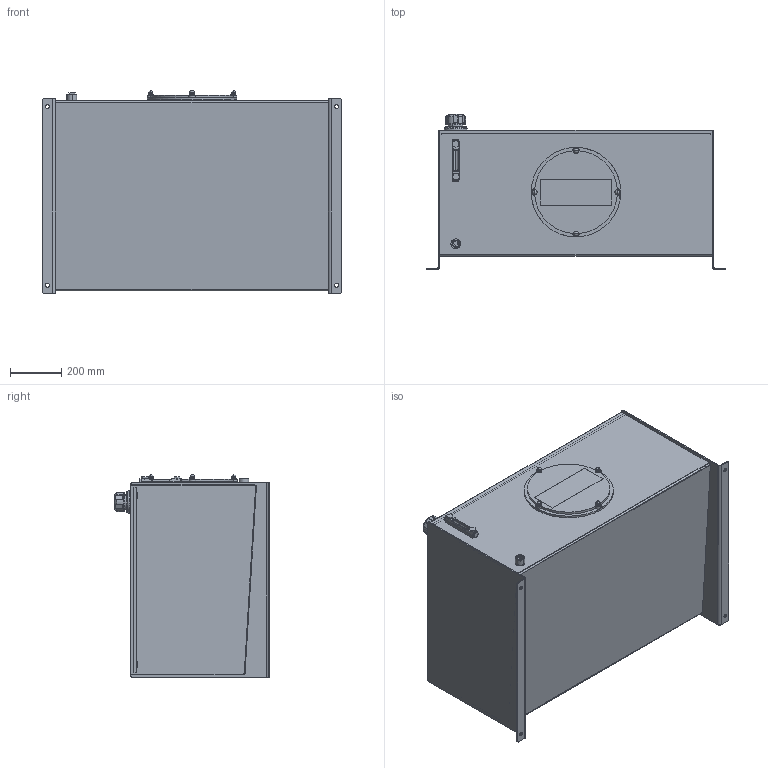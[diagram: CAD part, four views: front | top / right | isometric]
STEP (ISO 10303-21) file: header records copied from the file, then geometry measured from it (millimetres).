
FILE_DESCRIPTION (( 'STEP AP203' ), '1' );
FILE_NAME ('RDIN080-CFA.STEP', '2018-03-02T18:30:03', ( 'Windows User' ), ( '' ), 'SwSTEP 2.0', 'SolidWorks 2017', '' );
FILE_SCHEMA (( 'CONFIG_CONTROL_DESIGN' ));
Length unit declared in the file: inch
Products named in the file (20): 8162-008-2_4534K45; RDIN060-QSTSBUR00080008; RHJ-PLUG-016; BHS8100-15350; RHJ-PLUG-200; REC-M350K; RDIN080-CFA-TOP; RDIN080-CFA-BODY_RJIC020-BODY; Weld Riser; S12; RDIN080-CFA-REND; RDIN080-CFA; FB-C-H_FB-H008W; WFZM010; FB-H008W; REC-M350C-4; FB-S-W; PLLG-05T; RDIN080-CFA-LEND; FB-F008_FB-F-008
Assembly tree (26 placements, depth 3):
  RHJ-PLUG-016
  RHJ-PLUG-200
  RDIN080-CFA
    RDIN080-CFA-BODY_RJIC020-BODY
    RDIN080-CFA-LEND
    RDIN080-CFA-REND
    RDIN080-CFA-TOP
    RDIN060-QSTSBUR00080008  x4
    Weld Riser
    FB-H008W
      FB-F008_FB-F-008
      FB-S-W
      FB-C-H_FB-H008W
    BHS8100-15350  x4
    PLLG-05T
    REC-M350K
      REC-M350C-4
      WFZM010  x4
    S12
    8162-008-2_4534K45
Bounding box: 1168.4 x 606.04 x 792.72 mm (x, y, z)
Volume: 18208826.1 mm3; surface area: 7363799.7 mm2
Topology: 31 solids, 31 shells, 1026 faces, 2400 edges, 1434 vertices
Faces by surface type: cylinder 359, plane 341, torus 102, bspline 88, cone 88, sphere 48
Entity records: 33524 total; most frequent: CARTESIAN_POINT 9290, DIRECTION 4820, ORIENTED_EDGE 4440, EDGE_CURVE 2220, AXIS2_PLACEMENT_3D 1942, VERTEX_POINT 1332, EDGE_LOOP 1074, CIRCLE 1048
